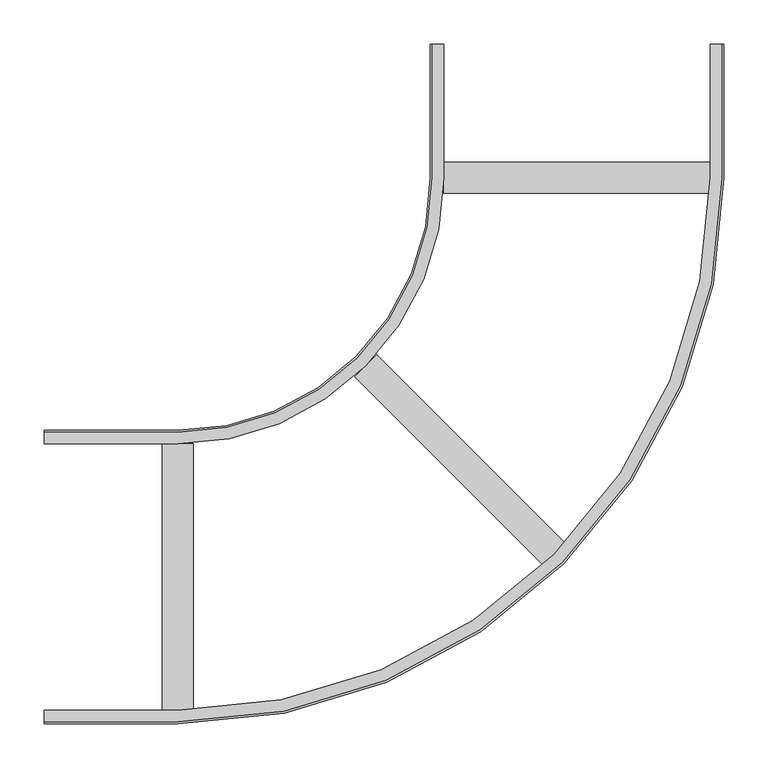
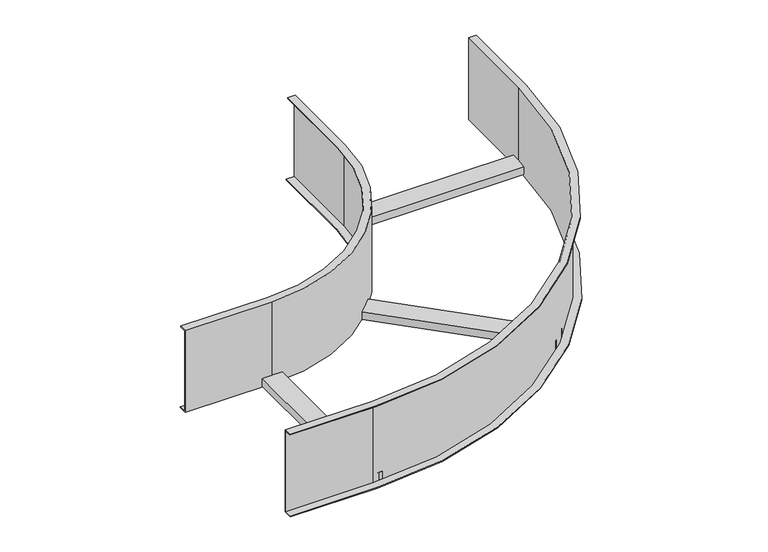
"""IFC4 building model written with IfcOpenShell, lengths in millimetres: cable carrier fitting geometry, CPBLS-BSLR_Horizontal_Bend-Basortrav : Basortrav CPBSL-300 GC."""

from ifc_helpers import new_model, si_unit, frame, origin, place, context, project, spatial, polyline, circle_curve, outline, extrude, source, transform, mapped, element, save
from ifc_brep_helpers import plane_surface, cylinder_surface, revolved_surface, advanced_brep


def cable_carrier_fitting_abc3b4bb(model_context):
    return source(origin(), model_context, "Body", "SolidModel", [
        advanced_brep(
        [(-600.0, 163.0, 75.0), (-600.0, 163.0, 73.5), (-600.0, 151.5, 73.5), (-600.0, 151.5, -73.5), (-600.0, 165.1346187, -73.5), (-600.0, 165.1346187, -75.0), (-600.0, 150.0, -75.0), (-600.0, 150.0, 75.0), (-450.0, 150.0, 75.0), (-150.0, 450.0, 75.0), (-150.0, 600.0, 75.0), (-163.0, 600.0, 75.0), (-163.0, 450.0, 75.0), (-450.0, 163.0, 75.0), (-450.0, 150.0, -75.0), (-450.0, 165.1346187, -75.0), (-165.1346187, 450.0, -75.0), (-165.1346187, 600.0, -75.0), (-150.0, 600.0, -75.0), (-150.0, 450.0, -75.0), (-450.0, 163.0, 73.5), (-163.0, 450.0, 73.5), (-163.0, 600.0, 73.5), (-151.5, 600.0, 73.5), (-151.5, 450.0, 73.5), (-450.0, 151.5, 73.5), (-165.1346187, 600.0, -73.5), (-151.5, 600.0, -73.5), (-450.0, 151.5, -73.5), (-151.5, 450.0, -73.5), (-165.1346187, 450.0, -73.5), (-450.0, 165.1346187, -73.5)],
        [
            (0, 1),
            (1, 2),
            (2, 3),
            (3, 4),
            (4, 5),
            (5, 6),
            (6, 7),
            (7, 0),
            (7, 8),
            (8, 9, circle_curve(frame((-450.0, 450.0, 75.0), z_axis=(0.0, 0.0, 1.0), x_axis=(0.0, -1.0, 0.0)), 300.0)),
            (9, 10),
            (10, 11),
            (11, 12),
            (12, 13, circle_curve(frame((-450.0, 450.0, 75.0), z_axis=(0.0, 0.0, -1.0), x_axis=(0.0, -1.0, 0.0)), 287.0)),
            (13, 0),
            (6, 14),
            (14, 8),
            (5, 15),
            (15, 16, circle_curve(frame((-450.0, 450.0, -75.0), z_axis=(0.0, 0.0, 1.0), x_axis=(0.0, -1.0, 0.0)), 284.8653813)),
            (16, 17),
            (17, 18),
            (18, 19),
            (19, 14, circle_curve(frame((-450.0, 450.0, -75.0), z_axis=(0.0, 0.0, -1.0), x_axis=(0.0, -1.0, 0.0)), 300.0)),
            (1, 20),
            (20, 21, circle_curve(frame((-450.0, 450.0, 73.5), z_axis=(0.0, 0.0, 1.0), x_axis=(0.0, -1.0, 0.0)), 287.0)),
            (21, 22),
            (22, 23),
            (23, 24),
            (24, 25, circle_curve(frame((-450.0, 450.0, 73.5), z_axis=(0.0, 0.0, -1.0), x_axis=(0.0, -1.0, 0.0)), 298.5)),
            (25, 2),
            (13, 20),
            (19, 9),
            (12, 21),
            (10, 18),
            (17, 26),
            (26, 27),
            (27, 23),
            (22, 11),
            (25, 28),
            (28, 3),
            (28, 29, circle_curve(frame((-450.0, 450.0, -73.5), z_axis=(0.0, 0.0, 1.0), x_axis=(0.0, -1.0, 0.0)), 298.5)),
            (29, 27),
            (26, 30),
            (30, 31, circle_curve(frame((-450.0, 450.0, -73.5), z_axis=(0.0, 0.0, -1.0), x_axis=(0.0, -1.0, 0.0)), 284.8653813)),
            (31, 4),
            (31, 15),
            (24, 29),
            (30, 16),
        ],
        [
            plane_surface(frame((-600.0, 0.0, 0.0), z_axis=(-1.0, 0.0, 0.0), x_axis=(0.0, 0.0, 1.0))),
            plane_surface(frame((-600.0, 150.0, 75.0), z_axis=(0.0, 0.0, 1.0), x_axis=(1.0, 0.0, 0.0))),
            plane_surface(frame((-600.0, 150.0, -75.0), z_axis=(0.0, -1.0, 0.0), x_axis=(1.0, 0.0, 0.0))),
            plane_surface(frame((-600.0, 165.1346187, -75.0), z_axis=(0.0, 0.0, -1.0), x_axis=(1.0, 0.0, 0.0))),
            plane_surface(frame((-600.0, 163.0, 73.5), z_axis=(0.0, 0.0, -1.0), x_axis=(1.0, 0.0, 0.0))),
            plane_surface(frame((-600.0, 163.0, 75.0), z_axis=(0.0, 1.0, 0.0), x_axis=(1.0, 0.0, 0.0))),
            cylinder_surface(frame((-450.0, 450.0, 0.0), z_axis=(0.0, 0.0, 1.0), x_axis=(0.0, -1.0, 0.0)), 300.0),
            revolved_surface(polyline([(-450.0, 163.0, 75.0), (-450.0, 163.0, 73.5)]), (-450.0, 450.0, 0.0), (0.0, 0.0, 1.0)),
            plane_surface(frame((0.0, 600.0, 0.0), z_axis=(0.0, 1.0, 0.0), x_axis=(0.0, 0.0, 1.0))),
            plane_surface(frame((-150.0, 450.0, -75.0), z_axis=(1.0, 0.0, 0.0), x_axis=(0.0, 1.0, 0.0))),
            plane_surface(frame((-163.0, 450.0, 75.0), z_axis=(-1.0, 0.0, 0.0), x_axis=(0.0, 1.0, 0.0))),
            plane_surface(frame((-600.0, 151.5, 73.5), z_axis=(0.0, 1.0, 0.0), x_axis=(1.0, 0.0, 0.0))),
            plane_surface(frame((-600.0, 151.5, -73.5), z_axis=(0.0, 0.0, 1.0), x_axis=(1.0, 0.0, 0.0))),
            plane_surface(frame((-600.0, 165.1346187, -73.5), z_axis=(0.0, 1.0, 0.0), x_axis=(1.0, 0.0, 0.0))),
            revolved_surface(polyline([(-450.0, 151.5, 73.5), (-450.0, 151.5, -73.5)]), (-450.0, 450.0, 0.0), (0.0, 0.0, 1.0)),
            revolved_surface(polyline([(-450.0, 165.13461869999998, -73.5), (-450.0, 165.13461869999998, -75.0)]), (-450.0, 450.0, 0.0), (0.0, 0.0, 1.0)),
            plane_surface(frame((-151.5, 450.0, 73.5), z_axis=(-1.0, 0.0, 0.0), x_axis=(0.0, 1.0, 0.0))),
            plane_surface(frame((-165.1346187, 450.0, -73.5), z_axis=(-1.0, 0.0, 0.0), x_axis=(0.0, 1.0, 0.0))),
        ],
        [
            (0, [[1, 2, 3, 4, 5, 6, 7, 8]]),
            (1, [[-8, 9, 10, 11, 12, 13, 14, 15]]),
            (2, [[-7, 16, 17, -9]]),
            (3, [[-6, 18, 19, 20, 21, 22, 23, -16]]),
            (4, [[-2, 24, 25, 26, 27, 28, 29, 30]]),
            (5, [[-1, -15, 31, -24]]),
            (6, [[-10, -17, -23, 32]]),
            (7, [[-25, -31, -14, 33]]),
            (8, [[-12, 34, -21, 35, 36, 37, -27, 38]]),
            (9, [[-32, -22, -34, -11]]),
            (10, [[-33, -13, -38, -26]]),
            (11, [[-3, -30, 39, 40]]),
            (12, [[-4, -40, 41, 42, -36, 43, 44, 45]]),
            (13, [[-5, -45, 46, -18]]),
            (14, [[-41, -39, -29, 47]]),
            (15, [[-19, -46, -44, 48]]),
            (16, [[-47, -28, -37, -42]]),
            (17, [[-48, -43, -35, -20]]),
        ],
    ),
        extrude(outline(polyline([(-150.0, 432.5), (-150.0, 467.5), (150.0, 467.5), (150.0, 432.5), (-150.0, 432.5)])), frame((0.0, 0.0, -73.0), z_axis=(0.0, 0.0, 1.0), x_axis=(1.0, 0.0, 0.0)), (0.0, 0.0, 1.0), 14.0),
        extrude(outline(polyline([(-467.5, 150.0), (-432.5, 150.0), (-432.5, -150.0), (-467.5, -150.0), (-467.5, 150.0)])), frame((0.0, 0.0, -73.0), z_axis=(0.0, 0.0, 1.0), x_axis=(1.0, 0.0, 0.0)), (0.0, 0.0, 1.0), 14.0),
        extrude(outline(polyline([(-250.2423343, 225.493597), (-225.493597, 250.2423343), (-13.3615626, 38.1103), (-38.1103, 13.3615626), (-250.2423343, 225.493597)])), frame((0.0, 0.0, -73.0), z_axis=(0.0, 0.0, 1.0), x_axis=(1.0, 0.0, 0.0)), (0.0, 0.0, 1.0), 14.0),
        advanced_brep(
        [(-600.0, -163.0, 75.0), (-600.0, -150.0, 75.0), (-600.0, -150.0, -75.0), (-600.0, -165.1346187, -75.0), (-600.0, -165.1346187, -73.5), (-600.0, -151.5, -73.5), (-600.0, -151.5, 73.5), (-600.0, -163.0, 73.5), (163.0, 600.0, 75.0), (163.0, 600.0, 73.5), (151.5, 600.0, 73.5), (151.5, 600.0, -73.5), (165.1346187, 600.0, -73.5), (165.1346187, 600.0, -75.0), (150.0, 600.0, -75.0), (150.0, 600.0, 75.0), (-450.0, -163.0, 75.0), (163.0, 450.0, 75.0), (150.0, 450.0, 75.0), (-450.0, -150.0, 75.0), (-450.0, -150.0, -75.0), (150.0, 450.0, -75.0), (165.1346187, 450.0, -75.0), (-450.0, -165.1346187, -75.0), (-450.0, -151.5, 73.5), (151.5, 450.0, 73.5), (163.0, 450.0, 73.5), (-450.0, -163.0, 73.5), (-450.0, -165.1346187, -73.5), (165.1346187, 450.0, -73.5), (151.5, 450.0, -73.5), (-450.0, -151.5, -73.5)],
        [
            (0, 1),
            (1, 2),
            (2, 3),
            (3, 4),
            (4, 5),
            (5, 6),
            (6, 7),
            (7, 0),
            (8, 9),
            (9, 10),
            (10, 11),
            (11, 12),
            (12, 13),
            (13, 14),
            (14, 15),
            (15, 8),
            (0, 16),
            (16, 17, circle_curve(frame((-450.0, 450.0, 75.0), z_axis=(0.0, 0.0, 1.0), x_axis=(0.0, -1.0, 0.0)), 613.0)),
            (17, 8),
            (15, 18),
            (18, 19, circle_curve(frame((-450.0, 450.0, 75.0), z_axis=(0.0, 0.0, -1.0), x_axis=(0.0, -1.0, 0.0)), 600.0)),
            (19, 1),
            (19, 20),
            (20, 2),
            (20, 21, circle_curve(frame((-450.0, 450.0, -75.0), z_axis=(0.0, 0.0, 1.0), x_axis=(0.0, -1.0, 0.0)), 600.0)),
            (21, 14),
            (13, 22),
            (22, 23, circle_curve(frame((-450.0, 450.0, -75.0), z_axis=(0.0, 0.0, -1.0), x_axis=(0.0, -1.0, 0.0)), 615.1346187)),
            (23, 3),
            (6, 24),
            (24, 25, circle_curve(frame((-450.0, 450.0, 73.5), z_axis=(0.0, 0.0, 1.0), x_axis=(0.0, -1.0, 0.0)), 601.5)),
            (25, 10),
            (9, 26),
            (26, 27, circle_curve(frame((-450.0, 450.0, 73.5), z_axis=(0.0, 0.0, -1.0), x_axis=(0.0, -1.0, 0.0)), 613.0)),
            (27, 7),
            (27, 16),
            (18, 21),
            (26, 17),
            (23, 28),
            (28, 4),
            (28, 29, circle_curve(frame((-450.0, 450.0, -73.5), z_axis=(0.0, 0.0, 1.0), x_axis=(0.0, -1.0, 0.0)), 615.1346187)),
            (29, 12),
            (11, 30),
            (30, 31, circle_curve(frame((-450.0, 450.0, -73.5), z_axis=(0.0, 0.0, -1.0), x_axis=(0.0, -1.0, 0.0)), 601.5)),
            (31, 5),
            (31, 24),
            (22, 29),
            (30, 25),
        ],
        [
            plane_surface(frame((-600.0, 0.0, 0.0), z_axis=(-1.0, 0.0, 0.0), x_axis=(0.0, 0.0, 1.0))),
            plane_surface(frame((0.0, 600.0, 0.0), z_axis=(0.0, 1.0, 0.0), x_axis=(0.0, 0.0, 1.0))),
            plane_surface(frame((-600.0, -163.0, 75.0), z_axis=(0.0, 0.0, 1.0), x_axis=(1.0, 0.0, 0.0))),
            plane_surface(frame((-600.0, -150.0, 75.0), z_axis=(0.0, 1.0, 0.0), x_axis=(1.0, 0.0, 0.0))),
            plane_surface(frame((-600.0, -150.0, -75.0), z_axis=(0.0, 0.0, -1.0), x_axis=(1.0, 0.0, 0.0))),
            plane_surface(frame((-600.0, -151.5, 73.5), z_axis=(0.0, 0.0, -1.0), x_axis=(1.0, 0.0, 0.0))),
            plane_surface(frame((-600.0, -163.0, 73.5), z_axis=(0.0, -1.0, 0.0), x_axis=(1.0, 0.0, 0.0))),
            revolved_surface(polyline([(-450.0, -150.0, 75.0), (-450.0, -150.0, -75.0)]), (-450.0, 450.0, 0.0), (0.0, 0.0, 1.0)),
            cylinder_surface(frame((-450.0, 450.0, 0.0), z_axis=(0.0, 0.0, 1.0), x_axis=(0.0, -1.0, 0.0)), 613.0),
            plane_surface(frame((150.0, 450.0, 75.0), z_axis=(-1.0, 0.0, 0.0), x_axis=(0.0, 1.0, 0.0))),
            plane_surface(frame((163.0, 450.0, 73.5), z_axis=(1.0, 0.0, 0.0), x_axis=(0.0, 1.0, 0.0))),
            plane_surface(frame((-600.0, -165.1346187, -75.0), z_axis=(0.0, -1.0, 0.0), x_axis=(1.0, 0.0, 0.0))),
            plane_surface(frame((-600.0, -165.1346187, -73.5), z_axis=(0.0, 0.0, 1.0), x_axis=(1.0, 0.0, 0.0))),
            plane_surface(frame((-600.0, -151.5, -73.5), z_axis=(0.0, -1.0, 0.0), x_axis=(1.0, 0.0, 0.0))),
            cylinder_surface(frame((-450.0, 450.0, 0.0), z_axis=(0.0, 0.0, 1.0), x_axis=(0.0, -1.0, 0.0)), 615.1346187),
            cylinder_surface(frame((-450.0, 450.0, 0.0), z_axis=(0.0, 0.0, 1.0), x_axis=(0.0, -1.0, 0.0)), 601.5),
            plane_surface(frame((165.1346187, 450.0, -75.0), z_axis=(1.0, 0.0, 0.0), x_axis=(0.0, 1.0, 0.0))),
            plane_surface(frame((151.5, 450.0, -73.5), z_axis=(1.0, 0.0, 0.0), x_axis=(0.0, 1.0, 0.0))),
        ],
        [
            (0, [[1, 2, 3, 4, 5, 6, 7, 8]]),
            (1, [[9, 10, 11, 12, 13, 14, 15, 16]]),
            (2, [[-1, 17, 18, 19, -16, 20, 21, 22]]),
            (3, [[-2, -22, 23, 24]]),
            (4, [[-3, -24, 25, 26, -14, 27, 28, 29]]),
            (5, [[-7, 30, 31, 32, -10, 33, 34, 35]]),
            (6, [[-8, -35, 36, -17]]),
            (7, [[-25, -23, -21, 37]]),
            (8, [[-18, -36, -34, 38]]),
            (9, [[-37, -20, -15, -26]]),
            (10, [[-38, -33, -9, -19]]),
            (11, [[-4, -29, 39, 40]]),
            (12, [[-5, -40, 41, 42, -12, 43, 44, 45]]),
            (13, [[-6, -45, 46, -30]]),
            (14, [[-41, -39, -28, 47]]),
            (15, [[-31, -46, -44, 48]]),
            (16, [[-47, -27, -13, -42]]),
            (17, [[-48, -43, -11, -32]]),
        ],
    ),
    ])


if __name__ == "__main__":
    model = new_model("IFC4")
    model_context = context("Model", 3, world=origin())
    ifc_project = project(units=[si_unit("LENGTHUNIT", "METRE", prefix="MILLI")], contexts=[model_context])
    site = spatial("IfcSite", under=ifc_project)
    building = spatial("IfcBuilding", under=site)
    placement = place(None, origin())
    cable_carrier_fitting_shape = cable_carrier_fitting_abc3b4bb(model_context)
    element("IfcCableCarrierFitting", 1, ObjectType="CPBLS-BSLR_Horizontal_Bend-Basortrav : Basortrav CPBSL-300 GC", at=placement, inside=building, context=model_context, shape_type="MappedRepresentation", body=[
        mapped(cable_carrier_fitting_shape, transform((0.0, 0.0, 0.0), x_axis=(1.0, 0.0, 0.0), y_axis=(0.0, 1.0, 0.0), z_axis=(0.0, 0.0, 1.0))),
    ])
    save(model, "model.ifc")
